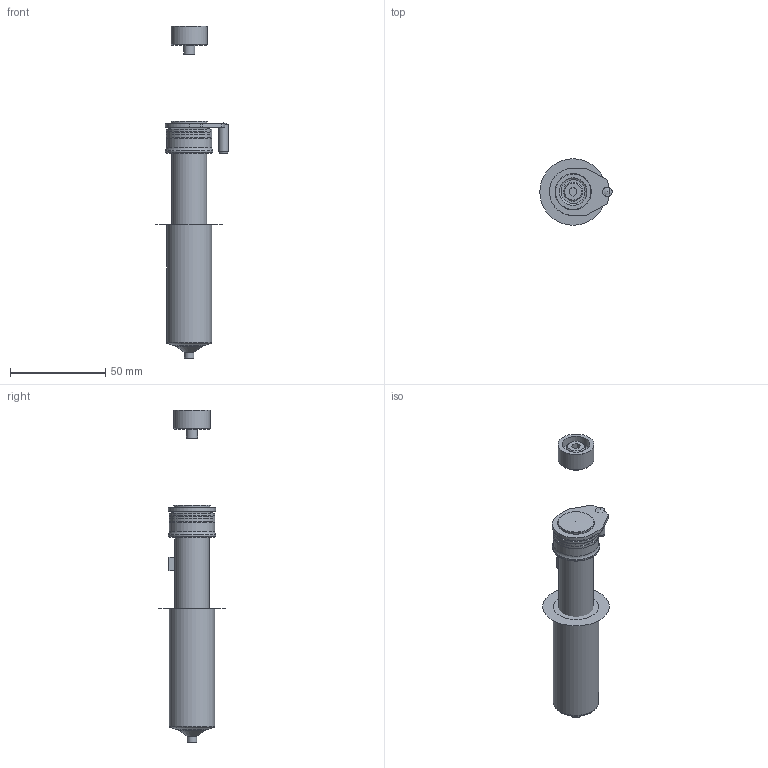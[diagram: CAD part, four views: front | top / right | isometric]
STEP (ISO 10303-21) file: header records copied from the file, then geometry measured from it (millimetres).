
FILE_DESCRIPTION(/* description */ (''),/* implementation_level */ '2;1');
FILE_NAME(/* name */ 'U500 TS.stp',/* time_stamp */ '2021-12-22T14:58:41+08:00',/* author */ (''),/* organization */ (''),/* preprocessor_version */ 'ST-DEVELOPER v16',/* originating_system */ 'SIEMENS PLM Software NX 11.0',/* authorisation */ '');
FILE_SCHEMA (('AUTOMOTIVE_DESIGN { 1 0 10303 214 3 1 1 1 }'));
Length unit declared in the file: millimetre
Products named in the file (18): 3D_EXPORT_3D_ASSY_11312910_0_id6_x_t; 3D_EXPORT_3D_ASSY_11312910_0_id11_x_t; 3D_EXPORT_3D_ASSY_11312910_0_id16_x_t; 3D_EXPORT_3D_ASSY_11312910_0_id21_x_t; 3D_EXPORT_3D_ASSY_11312910_0_id26_x_t; 3D_EXPORT_3D_ASSY_11312910_0_id31_x_t; 3D_EXPORT_3D_ASSY_11312910_0_id36_x_t; 3D_EXPORT_3D_ASSY_11312910_0_id41_x_t; 3D_EXPORT_3D_ASSY_11312910_0_id46_x_t; 3D_EXPORT_3D_ASSY_11312910_0_id51_x_t; 3D_EXPORT_3D_ASSY_11312910_0_id56_x_t; 3D_EXPORT_3D_ASSY_11312910_0_id61_x_t; 3D_EXPORT_3D_ASSY_11312910_0_id70_x_t; 3D_EXPORT_3D_ASSY_11312910_0_id75_x_t; 3D_EXPORT_3D_ASSY_11312910_0_id82_x_t; 3D_EXPORT_3D_ASSY_11312910_0_id87_x_t; 3D_EXPORT_3D_ASSY_11312910_0_id92_x_t; 3D_EXPORT_3D_ASSY_11312910_0_x_t
Assembly tree (20 placements, depth 2):
  3D_EXPORT_3D_ASSY_11312910_0_x_t
    3D_EXPORT_3D_ASSY_11312910_0_id92_x_t
    3D_EXPORT_3D_ASSY_11312910_0_id87_x_t
    3D_EXPORT_3D_ASSY_11312910_0_id82_x_t
    3D_EXPORT_3D_ASSY_11312910_0_id75_x_t  x2
    3D_EXPORT_3D_ASSY_11312910_0_id70_x_t
    3D_EXPORT_3D_ASSY_11312910_0_id61_x_t  x3
    3D_EXPORT_3D_ASSY_11312910_0_id56_x_t
    3D_EXPORT_3D_ASSY_11312910_0_id51_x_t
    3D_EXPORT_3D_ASSY_11312910_0_id46_x_t
    3D_EXPORT_3D_ASSY_11312910_0_id41_x_t
    3D_EXPORT_3D_ASSY_11312910_0_id36_x_t
    3D_EXPORT_3D_ASSY_11312910_0_id31_x_t
    3D_EXPORT_3D_ASSY_11312910_0_id26_x_t
    3D_EXPORT_3D_ASSY_11312910_0_id21_x_t
    3D_EXPORT_3D_ASSY_11312910_0_id16_x_t
    3D_EXPORT_3D_ASSY_11312910_0_id11_x_t
    3D_EXPORT_3D_ASSY_11312910_0_id6_x_t
Bounding box: 38 x 35 x 174.61 mm (x, y, z)
Volume: 69357.9 mm3; surface area: 32542.1 mm2
Topology: 20 solids, 20 shells, 311 faces, 630 edges, 371 vertices
Faces by surface type: plane 96, cylinder 83, torus 62, bspline 30, cone 25, sphere 15
Full cylindrical faces by diameter (mm): 1 x2, 4.6 x1, 4.9 x1, 4.905 x1, 5 x1, 5.795 x1, 6 x1, 7.4 x1, 7.5 x1, 8.944 x1, 9 x1, 10 x1, 11.86 x1, 12.5 x1, 12.66 x1, 12.715 x2, 12.735 x1, 12.76 x1, 13.005 x1, 13.23 x1, 13.725 x2, 14.5 x1, 16.307 x1, 17.125 x2, 17.62 x1, 18.4 x1, 18.47 x1, 19 x1, 19.05 x1, 20 x1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
Entity records: 10037 total; most frequent: CARTESIAN_POINT 1846, DIRECTION 1300, ORIENTED_EDGE 990, AXIS2_PLACEMENT_3D 589, EDGE_CURVE 495, EDGE_LOOP 398, VERTEX_POINT 334, PRESENTATION_STYLE_ASSIGNMENT 307
